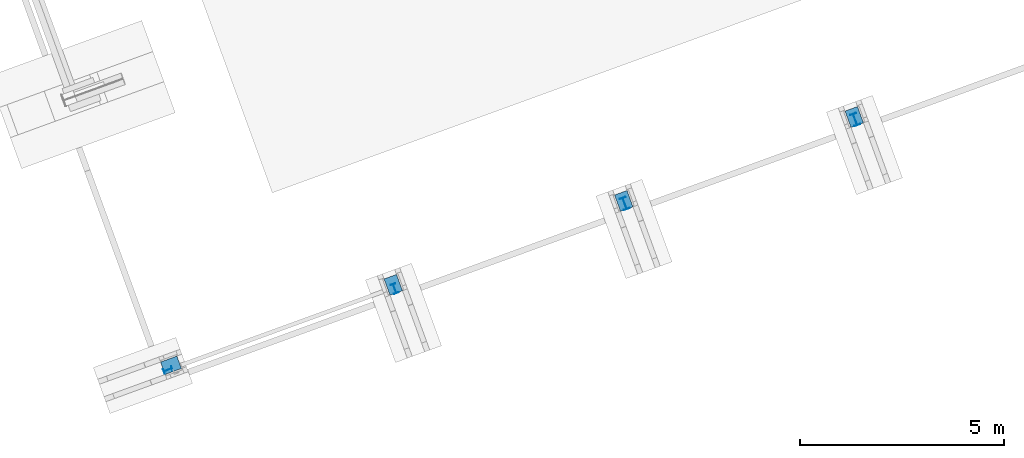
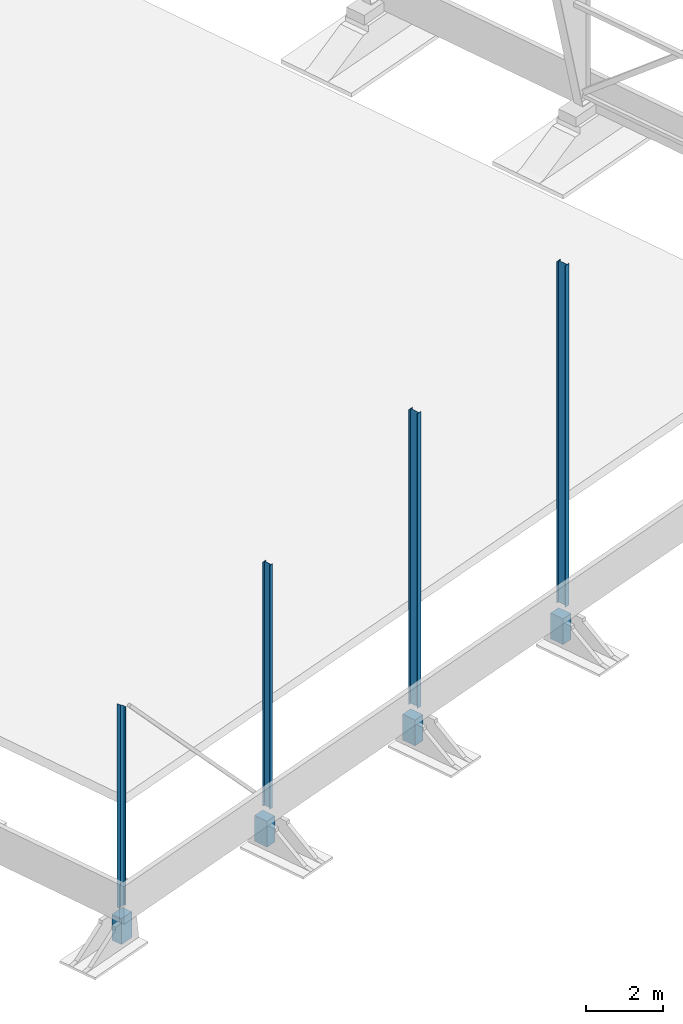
# One storey, part 1 of 20: 8 columns, 1 opening, 8 elements without a shape of their own.
"""IFC4 building model written with IfcOpenShell, lengths in millimetres."""

from ifc_helpers import new_model, si_unit, direction, frame, origin_with_axes, place, context, subcontext, project, spatial, line, indexed_curve, outline, extrude, material, element, aggregate, save


model = new_model("IFC4")

# Units and contexts
model_context = context("Model", 3, precision=0.2, world=frame((203566.813, 116264.779, 0.0), z_axis=(0.0, 0.0, 1.0), x_axis=(1.0, 0.0, 0.0)), true_north=direction((-0.9396138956, -0.3422363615)))
body_context = subcontext(model_context, "Body", "Model", "MODEL_VIEW")
ifc_project = project(units=[si_unit("LENGTHUNIT", "METRE", prefix="MILLI"), si_unit("AREAUNIT", "SQUARE_METRE"), si_unit("VOLUMEUNIT", "CUBIC_METRE"), si_unit("MASSUNIT", "GRAM", prefix="KILO"), si_unit("TIMEUNIT", "SECOND"), si_unit("PLANEANGLEUNIT", "RADIAN"), si_unit("SOLIDANGLEUNIT", "STERADIAN"), si_unit("THERMODYNAMICTEMPERATUREUNIT", "DEGREE_CELSIUS"), si_unit("LUMINOUSINTENSITYUNIT", "LUMEN")], contexts=[model_context])

# Site, building, storey
site_placement = place(None, origin_with_axes())
site = spatial("IfcSite", under=ifc_project, at=site_placement, Name="Nobelprojektet", CompositionType="ELEMENT")
building_placement = place(site_placement, origin_with_axes())
building = spatial("IfcBuilding", under=site, at=building_placement, Name="Hall B", CompositionType="ELEMENT")
storey_placement = place(building_placement, frame((0.0, 0.0, 1000.0), z_axis=(0.0, 0.0, 1.0), x_axis=(1.0, 0.0, 0.0)))
storey = spatial("IfcBuildingStorey", under=building, at=storey_placement, Name="Plan_1", CompositionType="ELEMENT", Elevation=1000.0)

# Assembly, column
assembly_1_placement = place(storey_placement, frame((150638.62197, 113195.56225, 131049.99996), z_axis=(-0.3422371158, 0.9396136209, 1.3e-09), x_axis=(0.0, 0.0, 1.0)))
assembly_1 = element("IfcElementAssembly", 1, at=assembly_1_placement, inside=storey, Name="BEF. GRUND", PredefinedType="NOTDEFINED")
ifc_material_1 = material(Name="C25/30", Category="CONCRETE")
column_1_placement = place(assembly_1_placement, origin_with_axes())
column_1 = element("IfcColumn", 2, at=column_1_placement, material=ifc_material_1, Name="BEF. GRUND", PredefinedType="NOTDEFINED", context=body_context, shape_type="SolidModel", body=[
    extrude(outline(indexed_curve([(-162.0, -212.5), (162.0, -212.5), (162.0, 212.5), (-162.0, 212.5)], segments=[line(1, 2, 3, 4, 1)])), frame((0.0, 0.0, 0.0), z_axis=(-1.0, 0.0, 0.0), x_axis=(0.0, 0.0, 1.0)), (0.0, 0.0, -1.0), 820.0),
])
aggregate(assembly_1, [column_1])

assembly_2_placement = place(storey_placement, frame((167351.57082, 119269.66028, 131049.99996), z_axis=(-0.9396136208, -0.3422371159, 0.0), x_axis=(0.0, 0.0, 1.0)))
assembly_2 = element("IfcElementAssembly", 3, at=assembly_2_placement, inside=storey, Name="BEF. GRUND", PredefinedType="NOTDEFINED")
column_2_placement = place(assembly_2_placement, origin_with_axes())
column_2 = element("IfcColumn", 4, at=column_2_placement, material=ifc_material_1, Name="BEF. GRUND", PredefinedType="NOTDEFINED", context=body_context, shape_type="SolidModel", body=[
    extrude(outline(indexed_curve([(-162.0, -212.5), (162.0, -212.5), (162.0, 212.5), (-162.0, 212.5)], segments=[line(1, 2, 3, 4, 1)])), frame((0.0, 0.0, 0.0), z_axis=(-1.0, 0.0, 0.0), x_axis=(0.0, 0.0, 1.0)), (0.0, 0.0, -1.0), 820.0),
])
aggregate(assembly_2, [column_2])

assembly_3_placement = place(storey_placement, frame((161713.88909, 117216.23758, 131049.99996), z_axis=(-0.9396136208, -0.3422371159, 0.0), x_axis=(0.0, 0.0, 1.0)))
assembly_3 = element("IfcElementAssembly", 5, at=assembly_3_placement, inside=storey, Name="BEF. GRUND", PredefinedType="NOTDEFINED")
column_3_placement = place(assembly_3_placement, origin_with_axes())
column_3 = element("IfcColumn", 6, at=column_3_placement, material=ifc_material_1, Name="BEF. GRUND", PredefinedType="NOTDEFINED", context=body_context, shape_type="SolidModel", body=[
    extrude(outline(indexed_curve([(-162.0, -212.5), (162.0, -212.5), (162.0, 212.5), (-162.0, 212.5)], segments=[line(1, 2, 3, 4, 1)])), frame((0.0, 0.0, 0.0), z_axis=(-1.0, 0.0, 0.0), x_axis=(0.0, 0.0, 1.0)), (0.0, 0.0, -1.0), 820.0),
])
aggregate(assembly_3, [column_3])

assembly_4_placement = place(storey_placement, frame((156076.20737, 115162.81489, 131049.99996), z_axis=(-0.9396136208, -0.3422371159, 0.0), x_axis=(0.0, 0.0, 1.0)))
assembly_4 = element("IfcElementAssembly", 7, at=assembly_4_placement, inside=storey, Name="BEF. GRUND", PredefinedType="NOTDEFINED")
column_4_placement = place(assembly_4_placement, origin_with_axes())
column_4 = element("IfcColumn", 8, at=column_4_placement, material=ifc_material_1, Name="BEF. GRUND", PredefinedType="NOTDEFINED", context=body_context, shape_type="SolidModel", body=[
    extrude(outline(indexed_curve([(-162.0, -212.5), (162.0, -212.5), (162.0, 212.5), (-162.0, 212.5)], segments=[line(1, 2, 3, 4, 1)])), frame((0.0, 0.0, 0.0), z_axis=(-1.0, 0.0, 0.0), x_axis=(0.0, 0.0, 1.0)), (0.0, 0.0, -1.0), 820.0),
])
aggregate(assembly_4, [column_4])

# Assembly, column, voiding feature
assembly_5_placement = place(storey_placement, frame((150564.98308, 113083.59925, 132179.99996), z_axis=(0.3422371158, -0.9396136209, 1.3e-09), x_axis=(0.0, 0.0, 1.0)))
assembly_5 = element("IfcElementAssembly", 9, at=assembly_5_placement, inside=storey, Name="BEF. STOMME", PredefinedType="NOTDEFINED")
ifc_material_2 = material(Name="S355J2", Category="STEEL")
column_5_placement = place(assembly_5_placement, origin_with_axes())
column_5 = element("IfcColumn", 10, at=column_5_placement, material=ifc_material_2, Name="BEF. STOMME", PredefinedType="NOTDEFINED", context=body_context, shape_type="SolidModel", body=[
    extrude(outline(indexed_curve([(-55.0, -110.0), (55.0, -110.0), (55.0, -100.8), (2.95, -100.8), (2.95, 100.8), (55.0, 100.8), (55.0, 110.0), (-55.0, 110.0), (-55.0, 100.8), (-2.95, 100.8), (-2.95, -100.8), (-55.0, -100.8)], segments=[line(1, 2, 3, 4, 5, 6, 7, 8, 9, 10, 11, 12, 1)])), frame((0.0, 0.0, 0.0), z_axis=(-1.0, 0.0, 0.0), x_axis=(0.0, 0.0, 1.0)), (0.0, 0.0, -1.0), 6534.0),
])
voiding_feature_placement = place(column_5_placement, frame((6312.27469, -110.0058, 0.0), z_axis=(0.0, 0.0, -1.0), x_axis=(0.608784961, 0.793335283, -3e-10)))
element("IfcVoidingFeature", 11, at=voiding_feature_placement, cuts=column_5, Name="CUTPART", PredefinedType="HOLE", context=body_context, shape_type="SolidModel", body=[
    extrude(outline(indexed_curve([(0.0, 0.0), (277.31178, 0.0), (309.52139, 41.96629), (134.98763, 175.89898)], segments=[line(1, 2, 3, 4, 1)])), frame((0.0, 0.0, 57.5), z_axis=(0.0, 0.0, 1.0), x_axis=(1.0, 0.0, 0.0)), (0.0, 0.0, -1.0), 115.0),
])
aggregate(assembly_5, [column_5])

# Assembly, column
assembly_6_placement = place(storey_placement, frame((156109.57155, 115071.1864, 132195.00293), z_axis=(0.9396136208, 0.3422371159, 0.0), x_axis=(0.0, 0.0, 1.0)))
assembly_6 = element("IfcElementAssembly", 12, at=assembly_6_placement, inside=storey, Name="BEF. STOMME", PredefinedType="NOTDEFINED")
column_6_placement = place(assembly_6_placement, origin_with_axes())
column_6 = element("IfcColumn", 13, at=column_6_placement, material=ifc_material_2, Name="BEF. STOMME", PredefinedType="NOTDEFINED", context=body_context, shape_type="SolidModel", body=[
    extrude(outline(indexed_curve([(-60.0, -120.0), (60.0, -120.0), (60.0, -110.2), (3.1, -110.2), (3.1, 110.2), (60.0, 110.2), (60.0, 120.0), (-60.0, 120.0), (-60.0, 110.2), (-3.1, 110.2), (-3.1, -110.2), (-60.0, -110.2)], segments=[line(1, 2, 3, 4, 5, 6, 7, 8, 9, 10, 11, 12, 1)])), frame((0.0, 0.0, 0.0), z_axis=(-1.0, 0.0, 0.0), x_axis=(0.0, 0.0, 1.0)), (0.0, 0.0, -1.0), 7762.25281),
])
aggregate(assembly_6, [column_6])

assembly_7_placement = place(storey_placement, frame((161736.99333, 117152.80012, 132195.00293), z_axis=(0.9396136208, 0.3422371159, 0.0), x_axis=(0.0, 0.0, 1.0)))
assembly_7 = element("IfcElementAssembly", 14, at=assembly_7_placement, inside=storey, Name="BEF. STOMME", PredefinedType="NOTDEFINED")
column_7_placement = place(assembly_7_placement, origin_with_axes())
column_7 = element("IfcColumn", 15, at=column_7_placement, material=ifc_material_2, Name="BEF. STOMME", PredefinedType="NOTDEFINED", context=body_context, shape_type="SolidModel", body=[
    extrude(outline(indexed_curve([(-75.0, -150.0), (75.0, -150.0), (75.0, -139.3), (3.55, -139.3), (3.55, 139.3), (75.0, 139.3), (75.0, 150.0), (-75.0, 150.0), (-75.0, 139.3), (-3.55, 139.3), (-3.55, -139.3), (-75.0, -139.3)], segments=[line(1, 2, 3, 4, 5, 6, 7, 8, 9, 10, 11, 12, 1)])), frame((0.0, 0.0, 0.0), z_axis=(-1.0, 0.0, 0.0), x_axis=(0.0, 0.0, 1.0)), (0.0, 0.0, -1.0), 9369.94934),
])
aggregate(assembly_7, [column_7])

assembly_8_placement = place(storey_placement, frame((167374.67506, 119206.22281, 132195.00293), z_axis=(0.9396136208, 0.3422371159, 0.0), x_axis=(0.0, 0.0, 1.0)))
assembly_8 = element("IfcElementAssembly", 16, at=assembly_8_placement, inside=storey, Name="BEF. STOMME", PredefinedType="NOTDEFINED")
column_8_placement = place(assembly_8_placement, origin_with_axes())
column_8 = element("IfcColumn", 17, at=column_8_placement, material=ifc_material_2, Name="BEF. STOMME", PredefinedType="NOTDEFINED", context=body_context, shape_type="SolidModel", body=[
    extrude(outline(indexed_curve([(-75.0, -150.0), (75.0, -150.0), (75.0, -139.3), (3.55, -139.3), (3.55, 139.3), (75.0, 139.3), (75.0, 150.0), (-75.0, 150.0), (-75.0, 139.3), (-3.55, 139.3), (-3.55, -139.3), (-75.0, -139.3)], segments=[line(1, 2, 3, 4, 5, 6, 7, 8, 9, 10, 11, 12, 1)])), frame((0.0, 0.0, 0.0), z_axis=(-1.0, 0.0, 0.0), x_axis=(0.0, 0.0, 1.0)), (0.0, 0.0, -1.0), 10863.20934),
])
aggregate(assembly_8, [column_8])

save(model, "model.ifc")
